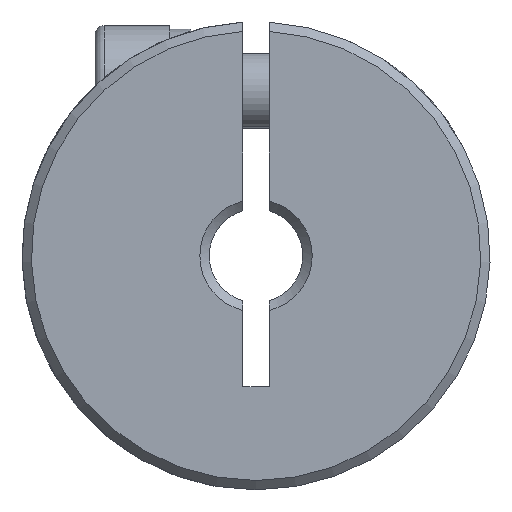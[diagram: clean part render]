
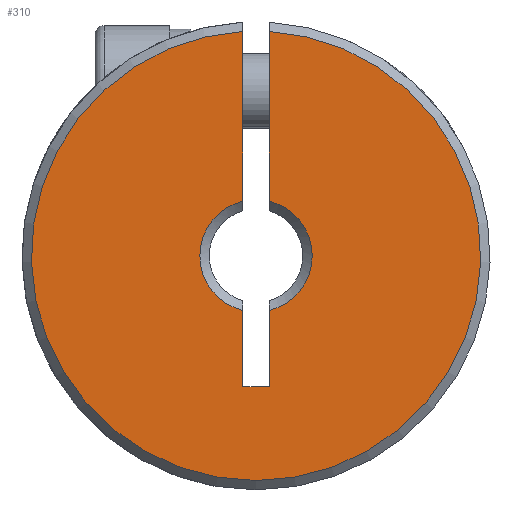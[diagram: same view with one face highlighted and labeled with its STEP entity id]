
A CAD part, front view. The second image highlights one B-rep face of the part: STEP entity #310.
In plain terms, the highlighted planar face has unit normal (0, -1, 0).
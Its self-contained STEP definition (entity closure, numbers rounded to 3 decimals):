
#12 = DIRECTION ( 'NONE',  ( 0., 0., 1. ) ) ;
#52 = CARTESIAN_POINT ( 'NONE',  ( 0.7, 0.25, -7. ) ) ;
#107 = VECTOR ( 'NONE', #1782, 1000. ) ;
#143 = AXIS2_PLACEMENT_3D ( 'NONE', #3129, #1517, #457 ) ;
#172 = VECTOR ( 'NONE', #664, 1000. ) ;
#183 = ORIENTED_EDGE ( 'NONE', *, *, #3322, .T. ) ;
#269 = CIRCLE ( 'NONE', #143, 12. ) ;
#310 = ADVANCED_FACE ( 'NONE', ( #1812 ), #975, .F. ) ;
#313 = CIRCLE ( 'NONE', #1116, 3. ) ;
#332 = CARTESIAN_POINT ( 'NONE',  ( 0., 0.25, 0. ) ) ;
#437 = DIRECTION ( 'NONE',  ( 0., 1., 0. ) ) ;
#457 = DIRECTION ( 'NONE',  ( 0., 0., 1. ) ) ;
#462 = EDGE_CURVE ( 'NONE', #3309, #3346, #2995, .T. ) ;
#489 = EDGE_CURVE ( 'NONE', #3114, #1464, #313, .T. ) ;
#664 = DIRECTION ( 'NONE',  ( 0., 0., 1. ) ) ;
#680 = EDGE_CURVE ( 'NONE', #1818, #1459, #3404, .T. ) ;
#693 = EDGE_CURVE ( 'NONE', #2526, #3346, #269, .T. ) ;
#726 = DIRECTION ( 'NONE',  ( 0., 0., -1. ) ) ;
#769 = DIRECTION ( 'NONE',  ( 0., 0., -1. ) ) ;
#798 = CARTESIAN_POINT ( 'NONE',  ( -0.7, 0.25, 2.917 ) ) ;
#849 = DIRECTION ( 'NONE',  ( 0., 0., 1. ) ) ;
#975 = PLANE ( 'NONE',  #2500 ) ;
#1078 = CARTESIAN_POINT ( 'NONE',  ( -0.7, 0.25, 11.98 ) ) ;
#1116 = AXIS2_PLACEMENT_3D ( 'NONE', #1379, #2179, #849 ) ;
#1127 = ORIENTED_EDGE ( 'NONE', *, *, #3121, .F. ) ;
#1187 = CIRCLE ( 'NONE', #3419, 3. ) ;
#1379 = CARTESIAN_POINT ( 'NONE',  ( 0., 0.25, 0. ) ) ;
#1459 = VERTEX_POINT ( 'NONE', #1861 ) ;
#1464 = VERTEX_POINT ( 'NONE', #798 ) ;
#1517 = DIRECTION ( 'NONE',  ( 0., -1., 0. ) ) ;
#1535 = EDGE_CURVE ( 'NONE', #1459, #3124, #2065, .T. ) ;
#1566 = VECTOR ( 'NONE', #12, 1000. ) ;
#1675 = CARTESIAN_POINT ( 'NONE',  ( 0.7, 0.25, 2.917 ) ) ;
#1782 = DIRECTION ( 'NONE',  ( 1., 0., 0. ) ) ;
#1812 = FACE_OUTER_BOUND ( 'NONE', #3235, .T. ) ;
#1818 = VERTEX_POINT ( 'NONE', #3347 ) ;
#1825 = CARTESIAN_POINT ( 'NONE',  ( -0.7, 0.25, -2.917 ) ) ;
#1838 = LINE ( 'NONE', #2114, #3102 ) ;
#1847 = CARTESIAN_POINT ( 'NONE',  ( 0.7, 0.25, -2.917 ) ) ;
#1861 = CARTESIAN_POINT ( 'NONE',  ( 0.7, 0.25, -7. ) ) ;
#1871 = ORIENTED_EDGE ( 'NONE', *, *, #462, .F. ) ;
#1962 = ORIENTED_EDGE ( 'NONE', *, *, #489, .T. ) ;
#1980 = DIRECTION ( 'NONE',  ( 0., 1., 0. ) ) ;
#2062 = LINE ( 'NONE', #2687, #2677 ) ;
#2065 = LINE ( 'NONE', #52, #172 ) ;
#2114 = CARTESIAN_POINT ( 'NONE',  ( -0.7, 0.25, -7. ) ) ;
#2179 = DIRECTION ( 'NONE',  ( 0., 1., 0. ) ) ;
#2229 = CARTESIAN_POINT ( 'NONE',  ( 0.7, 0.25, 11.98 ) ) ;
#2313 = DIRECTION ( 'NONE',  ( 0., 0., 1. ) ) ;
#2361 = ORIENTED_EDGE ( 'NONE', *, *, #2670, .F. ) ;
#2470 = DIRECTION ( 'NONE',  ( 0., 0., 1. ) ) ;
#2500 = AXIS2_PLACEMENT_3D ( 'NONE', #3108, #437, #2313 ) ;
#2526 = VERTEX_POINT ( 'NONE', #1078 ) ;
#2626 = ORIENTED_EDGE ( 'NONE', *, *, #1535, .F. ) ;
#2670 = EDGE_CURVE ( 'NONE', #3114, #1818, #2062, .T. ) ;
#2677 = VECTOR ( 'NONE', #726, 1000. ) ;
#2687 = CARTESIAN_POINT ( 'NONE',  ( -0.7, 0.25, -7. ) ) ;
#2752 = ORIENTED_EDGE ( 'NONE', *, *, #680, .F. ) ;
#2995 = LINE ( 'NONE', #3482, #1566 ) ;
#3102 = VECTOR ( 'NONE', #769, 1000. ) ;
#3108 = CARTESIAN_POINT ( 'NONE',  ( 12.5, 0.25, -50. ) ) ;
#3114 = VERTEX_POINT ( 'NONE', #1825 ) ;
#3121 = EDGE_CURVE ( 'NONE', #2526, #1464, #1838, .T. ) ;
#3124 = VERTEX_POINT ( 'NONE', #1847 ) ;
#3129 = CARTESIAN_POINT ( 'NONE',  ( 0., 0.25, 0. ) ) ;
#3235 = EDGE_LOOP ( 'NONE', ( #1871, #183, #2626, #2752, #2361, #1962, #1127, #3252 ) ) ;
#3252 = ORIENTED_EDGE ( 'NONE', *, *, #693, .T. ) ;
#3309 = VERTEX_POINT ( 'NONE', #1675 ) ;
#3322 = EDGE_CURVE ( 'NONE', #3309, #3124, #1187, .T. ) ;
#3346 = VERTEX_POINT ( 'NONE', #2229 ) ;
#3347 = CARTESIAN_POINT ( 'NONE',  ( -0.7, 0.25, -7. ) ) ;
#3404 = LINE ( 'NONE', #3426, #107 ) ;
#3419 = AXIS2_PLACEMENT_3D ( 'NONE', #332, #1980, #2470 ) ;
#3426 = CARTESIAN_POINT ( 'NONE',  ( 0.7, 0.25, -7. ) ) ;
#3482 = CARTESIAN_POINT ( 'NONE',  ( 0.7, 0.25, -7. ) ) ;
